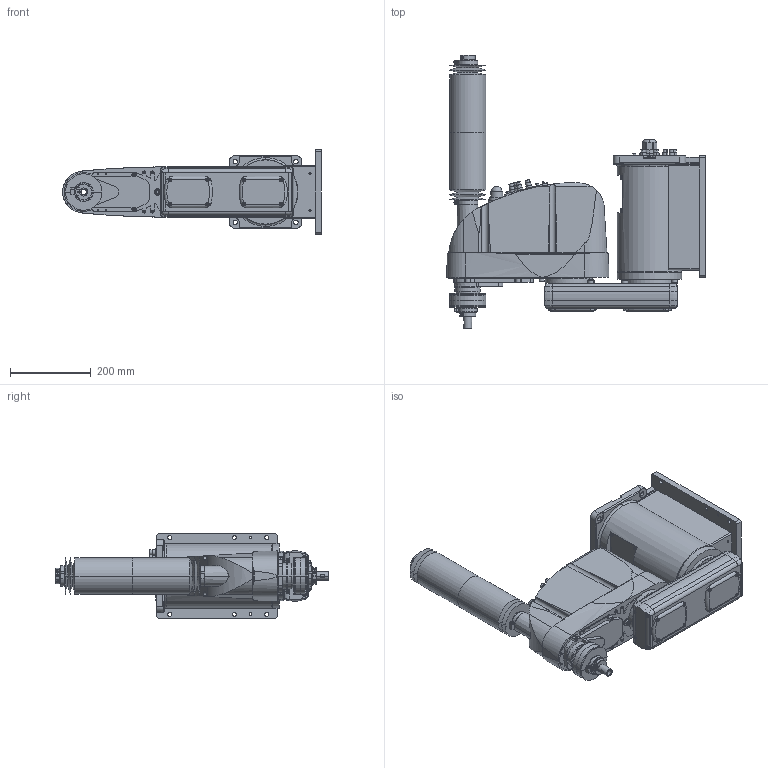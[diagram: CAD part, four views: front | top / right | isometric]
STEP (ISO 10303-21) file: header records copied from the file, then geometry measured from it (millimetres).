
FILE_DESCRIPTION( ( '' ), '1' );
FILE_NAME( '//expscmdclustefs.cadenas.external/client_exchange/iodir/jobs/output/wkb51533410_no0/STEP/G6_453CW_2_14b.stp', '2012-11-23T08:45:44', ( '' ), ( '' ), ' ', ' ', ' ' );
FILE_SCHEMA( ( 'automotive_design' ) );
Length unit declared in the file: millimetre
Products named in the file (8): 1; 2; 3; 4; 5; 6; 7; 8
Bounding box: 640 x 676 x 210 mm (x, y, z)
Volume: 22537727.2 mm3; surface area: 1186885.1 mm2
Topology: 8 solids, 8 shells, 1845 faces, 4516 edges, 2888 vertices
Faces by surface type: plane 955, cylinder 616, cone 234, torus 39, sphere 1
Entity records: 109367 total; most frequent: CARTESIAN_POINT 13081, DIRECTION 9546, STYLED_ITEM 9231, PRESENTATION_STYLE_ASSIGNMENT 9231, COLOUR_RGB 9231, ORIENTED_EDGE 8980, EDGE_CURVE 4490, CURVE_STYLE 4490
